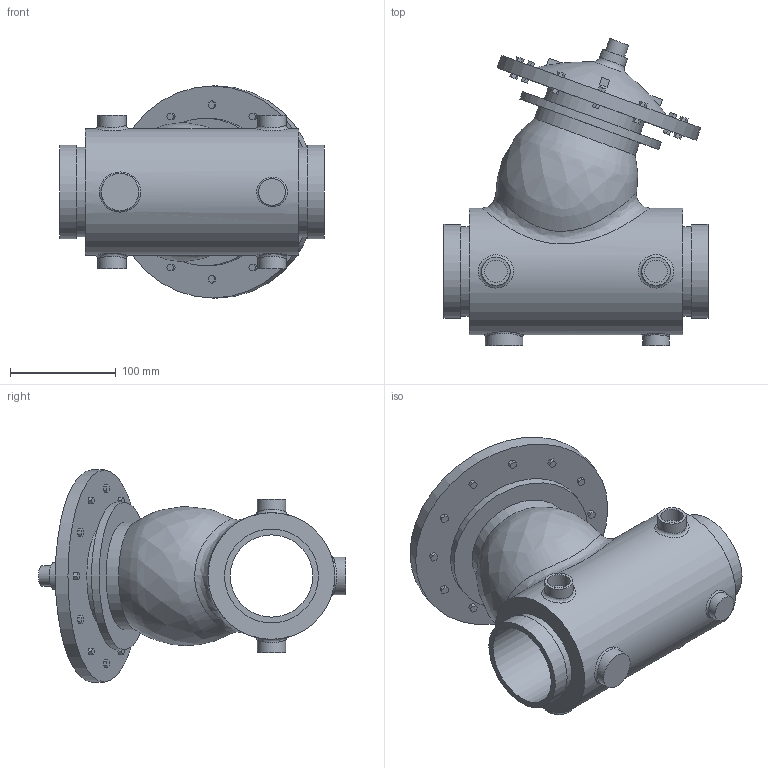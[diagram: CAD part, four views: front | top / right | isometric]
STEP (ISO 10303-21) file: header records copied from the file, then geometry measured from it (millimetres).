
FILE_DESCRIPTION(/* description */ ('VIC FP VALVE PRESSURE RELIEF SERIES 867-7UF (OGS)','CAx-IF Rec.Pracs.---Representation and Presentation of Product Manufacturing Information (PMI)---4.0---2014-10-13'),/* implementation_level */ '2;1');
FILE_NAME(/* name */ 'C:\Series 867-7UF\New folder (2)\step\Victaulic_FP-Bermad_Valve Pressure Relief_Series 867-7UF (OGS)\Victaulic_FP-Bermad_Valve Pressure Relief_Series 867-7UF (OGS)_3 (80).stp',/* time_stamp */ '2021-09-02T12:11:05+06:00',/* author */ ('kkamble'),/* organization */ ('Victaulic'),/* preprocessor_version */ 'ST-DEVELOPER v17.2',/* originating_system */ 'Autodesk Inventor 2019',/* authorisation */ '');
FILE_SCHEMA (('AP242_MANAGED_MODEL_BASED_3D_ENGINEERING_MIM_LF { 1 0 10303 442 1 1 4 }'));
Length unit declared in the file: inch
Products named in the file (1): 867-7UF-03.0
Bounding box: 249.94 x 290.65 x 200.66 mm (x, y, z)
Volume: 3270289.7 mm3; surface area: 292581.8 mm2
Topology: 1 solids, 1 shells, 242 faces, 612 edges, 417 vertices
Faces by surface type: plane 210, cylinder 22, bspline 9, torus 1
Full cylindrical faces by diameter (mm): 19.05 x1, 21.336 x4, 25.4 x2, 26.873 x4, 35.56 x1, 77.927 x1, 84.938 x2, 88.9 x2, 96.52 x1, 101.6 x1, 119.888 x1, 139.7 x1, 200.66 x1
Entity records: 8697 total; most frequent: CARTESIAN_POINT 2457, ORIENTED_EDGE 1236, DIRECTION 1140, EDGE_CURVE 618, LINE 494, VECTOR 494, VERTEX_POINT 423, AXIS2_PLACEMENT_3D 323
